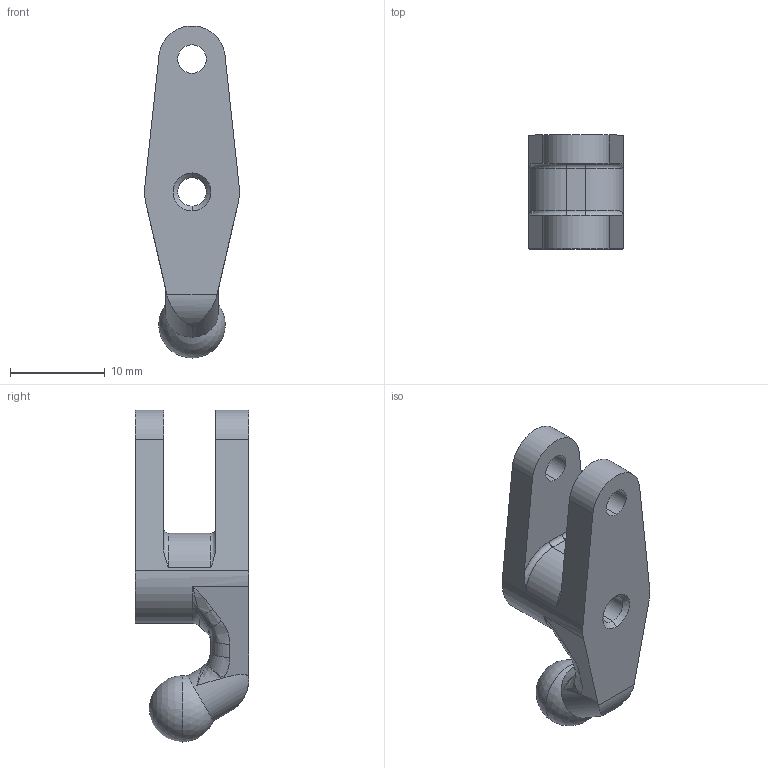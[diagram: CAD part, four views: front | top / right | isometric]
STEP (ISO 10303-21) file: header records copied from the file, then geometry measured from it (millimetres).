
FILE_DESCRIPTION (( 'STEP AP214' ), '1' );
FILE_NAME ('Ì44_ÏÌ_Ïîâîðîòíàÿ êà÷åëüêà.STEP', '2019-03-21T14:20:16', ( '' ), ( '' ), 'SwSTEP 2.0', 'SolidWorks 2018', '' );
FILE_SCHEMA (( 'AUTOMOTIVE_DESIGN' ));
Length unit declared in the file: millimetre
Products named in the file (1): Ì44_ÏÌ_Ïîâîðîòíàÿ êà÷åëüêà
Bounding box: 10 x 12 x 34.99 mm (x, y, z)
Volume: 1882.9 mm3; surface area: 1495.8 mm2
Topology: 1 solids, 1 shells, 59 faces, 155 edges, 93 vertices
Faces by surface type: cylinder 19, bspline 13, plane 10, cone 8, torus 7, sphere 2
Entity records: 2147 total; most frequent: CARTESIAN_POINT 778, ORIENTED_EDGE 294, DIRECTION 267, EDGE_CURVE 147, AXIS2_PLACEMENT_3D 110, VERTEX_POINT 91, EDGE_LOOP 66, CIRCLE 63
